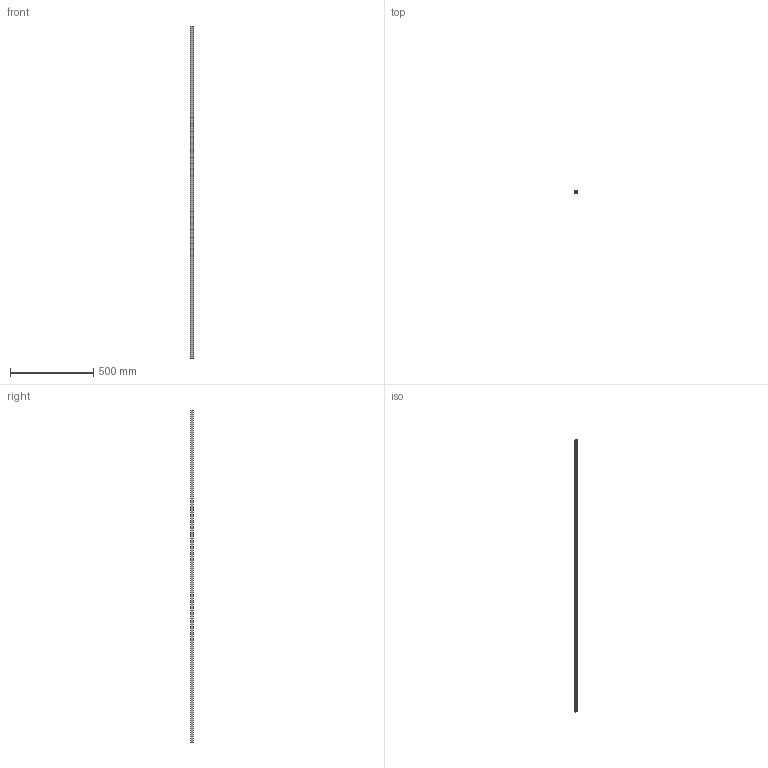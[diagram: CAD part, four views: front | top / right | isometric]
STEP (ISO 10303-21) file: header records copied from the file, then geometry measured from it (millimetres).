
FILE_DESCRIPTION (( 'STEP AP203' ), '1' );
FILE_NAME ('ChannelLine_D2_24.STEP', '2024-11-29T05:13:43', ( '' ), ( '' ), 'SwSTEP 2.0', 'SolidWorks 2023', '' );
FILE_SCHEMA (( 'CONFIG_CONTROL_DESIGN' ));
Length unit declared in the file: millimetre
Products named in the file (3): 2561501_Pr2444_K-Profil_ChannelLine_B-E_neu_Art. Nr. 25.776.98 L=2000 mm; ChannelLine_D2_24; 2577301_Pr02961_Al-Profil_ChannelLine_D2_25.773.98  L=2000mm
Assembly tree (2 placements, depth 2):
  ChannelLine_D2_24
    2577301_Pr02961_Al-Profil_ChannelLine_D2_25.773.98  L=2000mm
    2561501_Pr2444_K-Profil_ChannelLine_B-E_neu_Art. Nr. 25.776.98 L=2000 mm
Bounding box: 20.5 x 13.68 x 2000 mm (x, y, z)
Volume: 217150.9 mm3; surface area: 293501.7 mm2
Topology: 2 solids, 2 shells, 93 faces, 267 edges, 178 vertices
Faces by surface type: cylinder 50, plane 43
Entity records: 3386 total; most frequent: DIRECTION 563, CARTESIAN_POINT 543, ORIENTED_EDGE 534, EDGE_CURVE 267, AXIS2_PLACEMENT_3D 198, VERTEX_POINT 178, LINE 167, VECTOR 167
